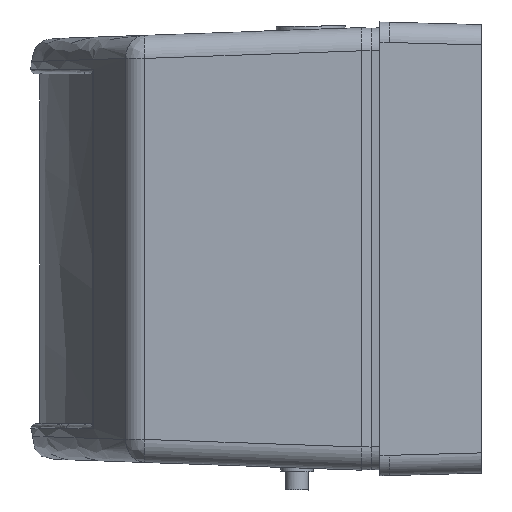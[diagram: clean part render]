
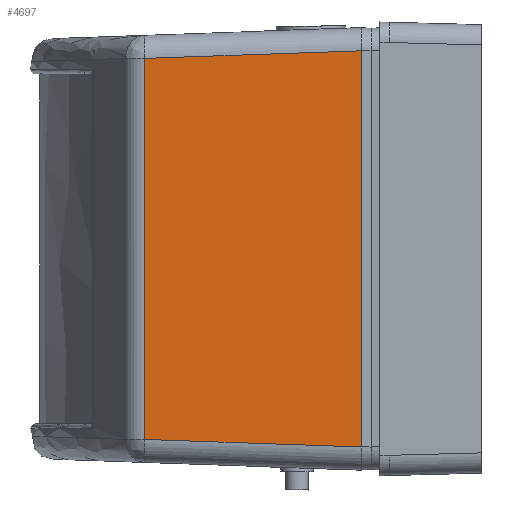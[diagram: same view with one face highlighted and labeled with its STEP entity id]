
A CAD part, left-side view. The second image highlights one B-rep face of the part: STEP entity #4697.
In plain terms, the highlighted planar face has unit normal (-0.999, 0.035, 0).
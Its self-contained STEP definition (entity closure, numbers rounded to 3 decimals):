
#121 = B_SPLINE_CURVE_WITH_KNOTS ( 'NONE', 1,
 ( #4402, #176 ),
 .UNSPECIFIED., .F., .F.,
 ( 2, 2 ),
 ( 0., 1. ),
 .UNSPECIFIED. ) ;
#176 = CARTESIAN_POINT ( 'NONE',  ( -80.996, -22.433, 40.498 ) ) ;
#470 = CARTESIAN_POINT ( 'NONE',  ( -79.35, 24.619, -16.284 ) ) ;
#703 = CARTESIAN_POINT ( 'NONE',  ( -80.993, -22.433, 11.832 ) ) ;
#814 = CARTESIAN_POINT ( 'NONE',  ( -80.993, -22.433, -16.832 ) ) ;
#1288 = ORIENTED_EDGE ( 'NONE', *, *, #3322, .F. ) ;
#2084 = CARTESIAN_POINT ( 'NONE',  ( -79.35, 24.619, -43.853 ) ) ;
#2148 = DIRECTION ( 'NONE',  ( 0.024, 0.695, -0.719 ) ) ;
#2215 = CARTESIAN_POINT ( 'NONE',  ( -80.996, -22.433, -45.498 ) ) ;
#2338 = B_SPLINE_CURVE_WITH_KNOTS ( 'NONE', 3,
 ( #5962, #4628, #470, #6999 ),
 .UNSPECIFIED., .F., .F.,
 ( 4, 4 ),
 ( 0., 1. ),
 .UNSPECIFIED. ) ;
#2380 = CARTESIAN_POINT ( 'NONE',  ( -80.996, -22.433, -45.498 ) ) ;
#2396 = ORIENTED_EDGE ( 'NONE', *, *, #4917, .T. ) ;
#2756 = CARTESIAN_POINT ( 'NONE',  ( -80.996, -22.433, 40.498 ) ) ;
#2941 = CARTESIAN_POINT ( 'NONE',  ( -79.35, 24.619, -43.853 ) ) ;
#3052 = EDGE_CURVE ( 'NONE', #5715, #6256, #2338, .T. ) ;
#3206 = B_SPLINE_CURVE_WITH_KNOTS ( 'NONE', 3,
 ( #2941, #5313, #6127, #2380 ),
 .UNSPECIFIED., .F., .F.,
 ( 4, 4 ),
 ( 0., 1. ),
 .UNSPECIFIED. ) ;
#3236 = DIRECTION ( 'NONE',  ( 0.999, -0.035, 0. ) ) ;
#3309 = AXIS2_PLACEMENT_3D ( 'NONE', #6847, #3236, #2148 ) ;
#3322 = EDGE_CURVE ( 'NONE', #5715, #4957, #121, .T. ) ;
#3424 = CARTESIAN_POINT ( 'NONE',  ( -79.35, 24.619, 38.853 ) ) ;
#3626 = ORIENTED_EDGE ( 'NONE', *, *, #3052, .T. ) ;
#3644 = CARTESIAN_POINT ( 'NONE',  ( -80.996, -22.433, -45.498 ) ) ;
#4402 = CARTESIAN_POINT ( 'NONE',  ( -79.35, 24.619, 38.853 ) ) ;
#4497 = ORIENTED_EDGE ( 'NONE', *, *, #6469, .T. ) ;
#4628 = CARTESIAN_POINT ( 'NONE',  ( -79.35, 24.619, 11.284 ) ) ;
#4697 = ADVANCED_FACE ( 'NONE', ( #5108 ), #7478, .F. ) ;
#4917 = EDGE_CURVE ( 'NONE', #5113, #4957, #6313, .T. ) ;
#4957 = VERTEX_POINT ( 'NONE', #2756 ) ;
#5108 = FACE_OUTER_BOUND ( 'NONE', #6539, .T. ) ;
#5113 = VERTEX_POINT ( 'NONE', #2215 ) ;
#5313 = CARTESIAN_POINT ( 'NONE',  ( -79.898, 8.935, -44.401 ) ) ;
#5715 = VERTEX_POINT ( 'NONE', #3424 ) ;
#5962 = CARTESIAN_POINT ( 'NONE',  ( -79.35, 24.619, 38.853 ) ) ;
#6109 = CARTESIAN_POINT ( 'NONE',  ( -80.996, -22.433, 40.498 ) ) ;
#6127 = CARTESIAN_POINT ( 'NONE',  ( -80.445, -6.749, -44.948 ) ) ;
#6256 = VERTEX_POINT ( 'NONE', #2084 ) ;
#6313 = B_SPLINE_CURVE_WITH_KNOTS ( 'NONE', 3,
 ( #3644, #814, #703, #6109 ),
 .UNSPECIFIED., .F., .F.,
 ( 4, 4 ),
 ( 0., 1. ),
 .UNSPECIFIED. ) ;
#6469 = EDGE_CURVE ( 'NONE', #6256, #5113, #3206, .T. ) ;
#6539 = EDGE_LOOP ( 'NONE', ( #1288, #3626, #4497, #2396 ) ) ;
#6847 = CARTESIAN_POINT ( 'NONE',  ( -81., -22.634, 47.936 ) ) ;
#6999 = CARTESIAN_POINT ( 'NONE',  ( -79.35, 24.619, -43.853 ) ) ;
#7478 = PLANE ( 'NONE',  #3309 ) ;
